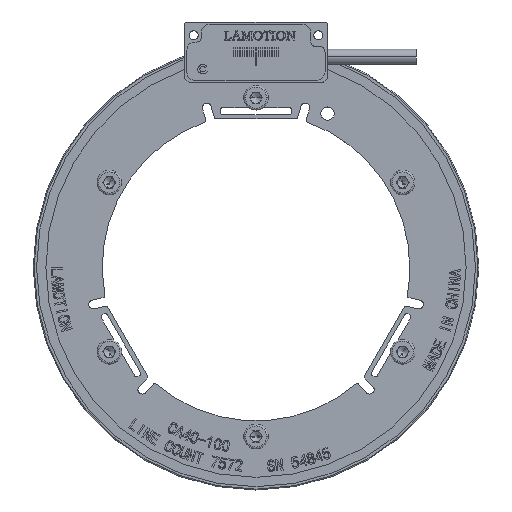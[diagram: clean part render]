
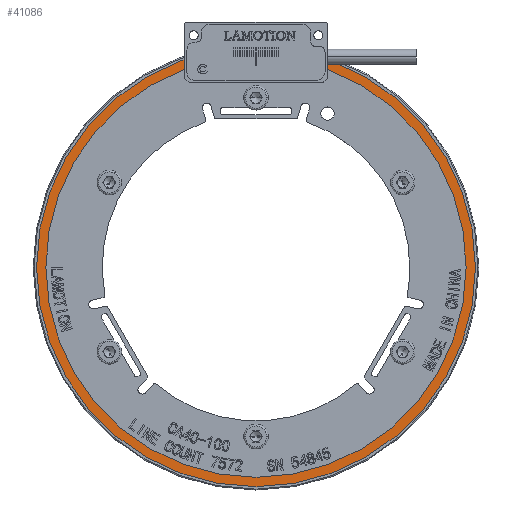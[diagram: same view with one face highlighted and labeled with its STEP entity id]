
A CAD part, top view. The second image highlights one B-rep face of the part: STEP entity #41086.
In plain terms, the highlighted planar face has unit normal (0, 0, 1).
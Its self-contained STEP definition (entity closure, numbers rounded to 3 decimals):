
#148 = CARTESIAN_POINT ( 'NONE',  ( -0.175, 45.15, 1.199 ) ) ;
#177 = EDGE_CURVE ( 'NONE', #17494, #21050, #23987, .T. ) ;
#1401 = CIRCLE ( 'NONE', #29300, 47.15 ) ;
#1517 = VERTEX_POINT ( 'NONE', #23620 ) ;
#2307 = CIRCLE ( 'NONE', #12832, 47.15 ) ;
#2314 = LINE ( 'NONE', #45241, #37776 ) ;
#3340 = DIRECTION ( 'NONE',  ( 1., 0., 0. ) ) ;
#3915 = CIRCLE ( 'NONE', #28039, 47.15 ) ;
#4000 = DIRECTION ( 'NONE',  ( 0., 1., 0. ) ) ;
#4608 = VERTEX_POINT ( 'NONE', #10763 ) ;
#4924 = CARTESIAN_POINT ( 'NONE',  ( 0., 0., 1.199 ) ) ;
#5190 = CARTESIAN_POINT ( 'NONE',  ( 0.175, 45.15, 1.199 ) ) ;
#6239 = EDGE_CURVE ( 'NONE', #32515, #1517, #3915, .T. ) ;
#6634 = ORIENTED_EDGE ( 'NONE', *, *, #8322, .T. ) ;
#6678 = VECTOR ( 'NONE', #38375, 1000. ) ;
#7724 = AXIS2_PLACEMENT_3D ( 'NONE', #4924, #44762, #16224 ) ;
#8322 = EDGE_CURVE ( 'NONE', #9268, #33977, #24762, .T. ) ;
#9268 = VERTEX_POINT ( 'NONE', #5190 ) ;
#9466 = FACE_BOUND ( 'NONE', #23581, .T. ) ;
#10763 = CARTESIAN_POINT ( 'NONE',  ( -49.25, 0., 1.199 ) ) ;
#11499 = CIRCLE ( 'NONE', #7724, 49.25 ) ;
#11705 = DIRECTION ( 'NONE',  ( 1., 0., 0. ) ) ;
#12832 = AXIS2_PLACEMENT_3D ( 'NONE', #33191, #24997, #11705 ) ;
#13573 = CARTESIAN_POINT ( 'NONE',  ( 49.25, 0., 1.199 ) ) ;
#13676 = ORIENTED_EDGE ( 'NONE', *, *, #177, .T. ) ;
#16224 = DIRECTION ( 'NONE',  ( 1., 0., 0. ) ) ;
#16697 = DIRECTION ( 'NONE',  ( 1., 0., 0. ) ) ;
#16771 = PLANE ( 'NONE',  #38328 ) ;
#17494 = VERTEX_POINT ( 'NONE', #17838 ) ;
#17838 = CARTESIAN_POINT ( 'NONE',  ( -0.175, 47.15, 1.199 ) ) ;
#18144 = EDGE_CURVE ( 'NONE', #4608, #30263, #27124, .T. ) ;
#18406 = DIRECTION ( 'NONE',  ( 0., 0., 1. ) ) ;
#18766 = ORIENTED_EDGE ( 'NONE', *, *, #34126, .F. ) ;
#18871 = CARTESIAN_POINT ( 'NONE',  ( 0., 0., 1.199 ) ) ;
#19813 = CARTESIAN_POINT ( 'NONE',  ( 0.175, 47.15, 1.199 ) ) ;
#20545 = DIRECTION ( 'NONE',  ( 1., 0., 0. ) ) ;
#20997 = DIRECTION ( 'NONE',  ( 0., 0., 1. ) ) ;
#21050 = VERTEX_POINT ( 'NONE', #148 ) ;
#21250 = CARTESIAN_POINT ( 'NONE',  ( 0., 0., 1.199 ) ) ;
#23457 = ORIENTED_EDGE ( 'NONE', *, *, #35991, .T. ) ;
#23581 = EDGE_LOOP ( 'NONE', ( #29674, #13676, #23457, #6634, #18766, #34610 ) ) ;
#23620 = CARTESIAN_POINT ( 'NONE',  ( 47.15, 0., 1.199 ) ) ;
#23987 = LINE ( 'NONE', #31554, #6678 ) ;
#24321 = CARTESIAN_POINT ( 'NONE',  ( 0., 0., 1.199 ) ) ;
#24355 = VECTOR ( 'NONE', #4000, 1000. ) ;
#24762 = LINE ( 'NONE', #39159, #24355 ) ;
#24997 = DIRECTION ( 'NONE',  ( 0., 0., 1. ) ) ;
#27124 = CIRCLE ( 'NONE', #32387, 49.25 ) ;
#28039 = AXIS2_PLACEMENT_3D ( 'NONE', #21250, #42269, #3340 ) ;
#28056 = EDGE_LOOP ( 'NONE', ( #42363, #37447 ) ) ;
#29300 = AXIS2_PLACEMENT_3D ( 'NONE', #24321, #38473, #20545 ) ;
#29674 = ORIENTED_EDGE ( 'NONE', *, *, #41117, .F. ) ;
#30263 = VERTEX_POINT ( 'NONE', #13573 ) ;
#31193 = CARTESIAN_POINT ( 'NONE',  ( 0., 0., 1.199 ) ) ;
#31554 = CARTESIAN_POINT ( 'NONE',  ( -0.175, 45.15, 1.199 ) ) ;
#32387 = AXIS2_PLACEMENT_3D ( 'NONE', #18871, #18406, #44110 ) ;
#32515 = VERTEX_POINT ( 'NONE', #38321 ) ;
#33191 = CARTESIAN_POINT ( 'NONE',  ( 0., 0., 1.199 ) ) ;
#33977 = VERTEX_POINT ( 'NONE', #19813 ) ;
#34126 = EDGE_CURVE ( 'NONE', #1517, #33977, #2307, .T. ) ;
#34610 = ORIENTED_EDGE ( 'NONE', *, *, #6239, .F. ) ;
#35170 = FACE_OUTER_BOUND ( 'NONE', #28056, .T. ) ;
#35991 = EDGE_CURVE ( 'NONE', #21050, #9268, #2314, .T. ) ;
#37239 = EDGE_CURVE ( 'NONE', #30263, #4608, #11499, .T. ) ;
#37447 = ORIENTED_EDGE ( 'NONE', *, *, #18144, .T. ) ;
#37776 = VECTOR ( 'NONE', #16697, 1000. ) ;
#38321 = CARTESIAN_POINT ( 'NONE',  ( -47.15, 0., 1.199 ) ) ;
#38328 = AXIS2_PLACEMENT_3D ( 'NONE', #31193, #20997, #46007 ) ;
#38375 = DIRECTION ( 'NONE',  ( 0., -1., 0. ) ) ;
#38473 = DIRECTION ( 'NONE',  ( 0., 0., 1. ) ) ;
#39159 = CARTESIAN_POINT ( 'NONE',  ( 0.175, 45.15, 1.199 ) ) ;
#41086 = ADVANCED_FACE ( 'NONE', ( #9466, #35170 ), #16771, .T. ) ;
#41117 = EDGE_CURVE ( 'NONE', #17494, #32515, #1401, .T. ) ;
#42269 = DIRECTION ( 'NONE',  ( 0., 0., 1. ) ) ;
#42363 = ORIENTED_EDGE ( 'NONE', *, *, #37239, .T. ) ;
#44110 = DIRECTION ( 'NONE',  ( 1., 0., 0. ) ) ;
#44762 = DIRECTION ( 'NONE',  ( 0., 0., 1. ) ) ;
#45241 = CARTESIAN_POINT ( 'NONE',  ( 0.175, 45.15, 1.199 ) ) ;
#46007 = DIRECTION ( 'NONE',  ( 1., 0., 0. ) ) ;
